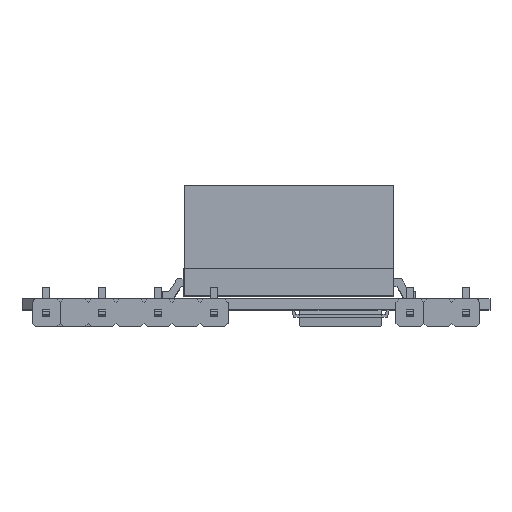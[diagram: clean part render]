
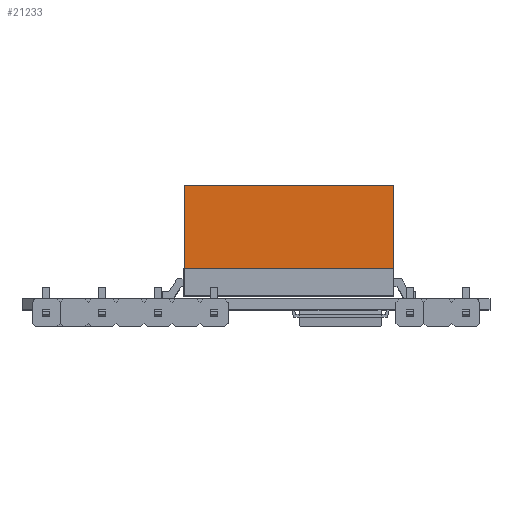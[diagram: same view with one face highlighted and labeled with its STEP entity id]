
A CAD part, top view. The second image highlights one B-rep face of the part: STEP entity #21233.
In plain terms, the highlighted planar face has unit normal (0, 0, 1).
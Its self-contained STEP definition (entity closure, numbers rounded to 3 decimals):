
#726 = FACE_OUTER_BOUND ( 'NONE', #23134, .T. ) ;
#1109 = AXIS2_PLACEMENT_3D ( 'NONE', #2475, #2454, #2470 ) ;
#2454 = DIRECTION ( 'NONE',  ( 0., 0., -1. ) ) ;
#2470 = DIRECTION ( 'NONE',  ( -1., 0., 0. ) ) ;
#2475 = CARTESIAN_POINT ( 'NONE',  ( -9.5, 5., 9.5 ) ) ;
#2493 = PLANE ( 'NONE',  #1109 ) ;
#2947 = EDGE_CURVE ( 'NONE', #27363, #28184, #28429, .T. ) ;
#2953 = EDGE_CURVE ( 'NONE', #28184, #28068, #28436, .T. ) ;
#2957 = EDGE_CURVE ( 'NONE', #27459, #28068, #28443, .T. ) ;
#2986 = EDGE_CURVE ( 'NONE', #27363, #27459, #28494, .T. ) ;
#17690 = CARTESIAN_POINT ( 'NONE',  ( -9.5, 5., 9.5 ) ) ;
#17745 = CARTESIAN_POINT ( 'NONE',  ( -9.5, -5., 9.5 ) ) ;
#18065 = CARTESIAN_POINT ( 'NONE',  ( 9.5, -5., 9.5 ) ) ;
#18247 = CARTESIAN_POINT ( 'NONE',  ( 9.5, 5., 9.5 ) ) ;
#21233 = ADVANCED_FACE ( 'NONE', ( #726 ), #2493, .F. ) ;
#21702 = DIRECTION ( 'NONE',  ( 1., 0., 0. ) ) ;
#21712 = CARTESIAN_POINT ( 'NONE',  ( -9.5, -5., 9.5 ) ) ;
#21717 = CARTESIAN_POINT ( 'NONE',  ( -9.5, 5., 9.5 ) ) ;
#21723 = DIRECTION ( 'NONE',  ( 0., -1., 0. ) ) ;
#21724 = DIRECTION ( 'NONE',  ( 1., 0., 0. ) ) ;
#21735 = CARTESIAN_POINT ( 'NONE',  ( 9.5, 5., 9.5 ) ) ;
#21792 = DIRECTION ( 'NONE',  ( 0., -1., 0. ) ) ;
#21802 = CARTESIAN_POINT ( 'NONE',  ( -9.5, 5., 9.5 ) ) ;
#23134 = EDGE_LOOP ( 'NONE', ( #27866, #27853, #27851, #27831 ) ) ;
#27363 = VERTEX_POINT ( 'NONE', #17690 ) ;
#27459 = VERTEX_POINT ( 'NONE', #17745 ) ;
#27831 = ORIENTED_EDGE ( 'NONE', *, *, #2986, .T. ) ;
#27851 = ORIENTED_EDGE ( 'NONE', *, *, #2947, .F. ) ;
#27853 = ORIENTED_EDGE ( 'NONE', *, *, #2953, .F. ) ;
#27866 = ORIENTED_EDGE ( 'NONE', *, *, #2957, .T. ) ;
#28068 = VERTEX_POINT ( 'NONE', #18065 ) ;
#28184 = VERTEX_POINT ( 'NONE', #18247 ) ;
#28398 = VECTOR ( 'NONE', #21723, 1000. ) ;
#28409 = VECTOR ( 'NONE', #21702, 1000. ) ;
#28429 = LINE ( 'NONE', #21717, #28409 ) ;
#28431 = VECTOR ( 'NONE', #21724, 1000. ) ;
#28436 = LINE ( 'NONE', #21735, #28398 ) ;
#28443 = LINE ( 'NONE', #21712, #28431 ) ;
#28494 = LINE ( 'NONE', #21802, #28504 ) ;
#28504 = VECTOR ( 'NONE', #21792, 1000. ) ;
